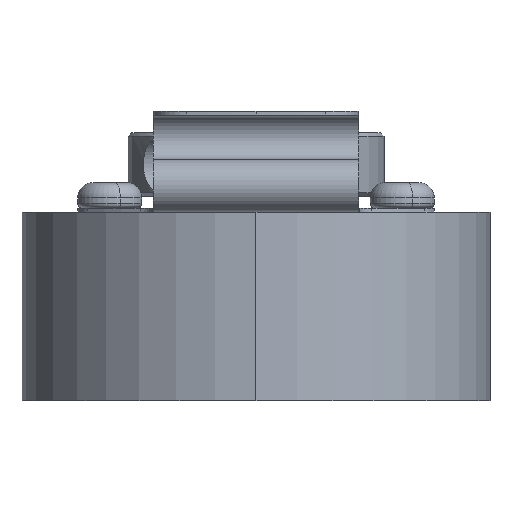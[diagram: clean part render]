
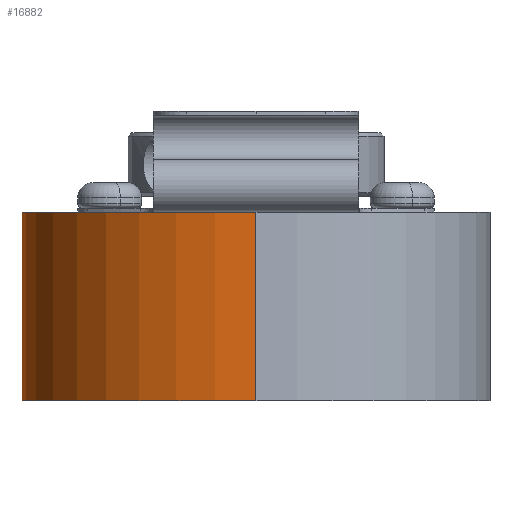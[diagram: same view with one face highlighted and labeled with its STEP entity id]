
A CAD part, left-side view. The second image highlights one B-rep face of the part: STEP entity #16882.
In plain terms, the highlighted cylindrical face has radius 18.25 mm (diameter 36.5 mm), a partial arc.
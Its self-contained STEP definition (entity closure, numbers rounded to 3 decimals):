
#865 = CARTESIAN_POINT ( 'NONE',  ( 0., 0., 0. ) ) ;
#1331 = ORIENTED_EDGE ( 'NONE', *, *, #21271, .T. ) ;
#1924 = VERTEX_POINT ( 'NONE', #30184 ) ;
#2551 = CARTESIAN_POINT ( 'NONE',  ( 18.25, 0., 984. ) ) ;
#3089 = DIRECTION ( 'NONE',  ( 1., 0., 0. ) ) ;
#3342 = EDGE_CURVE ( 'NONE', #1924, #25131, #28485, .T. ) ;
#3688 = CARTESIAN_POINT ( 'NONE',  ( 0., 0., -14.7 ) ) ;
#3714 = VECTOR ( 'NONE', #27923, 1000. ) ;
#4960 = CYLINDRICAL_SURFACE ( 'NONE', #30054, 18.25 ) ;
#8217 = CIRCLE ( 'NONE', #25611, 18.25 ) ;
#8704 = ORIENTED_EDGE ( 'NONE', *, *, #21694, .T. ) ;
#9229 = CIRCLE ( 'NONE', #30104, 18.25 ) ;
#10313 = LINE ( 'NONE', #2551, #13904 ) ;
#11622 = CARTESIAN_POINT ( 'NONE',  ( -18.25, 0., 0. ) ) ;
#13527 = CARTESIAN_POINT ( 'NONE',  ( -18.25, 0., 984. ) ) ;
#13904 = VECTOR ( 'NONE', #23224, 1000. ) ;
#14461 = VERTEX_POINT ( 'NONE', #16846 ) ;
#15208 = EDGE_CURVE ( 'NONE', #23662, #14461, #10313, .T. ) ;
#15460 = DIRECTION ( 'NONE',  ( 0., 0., 1. ) ) ;
#15715 = DIRECTION ( 'NONE',  ( -1., 0., 0. ) ) ;
#16846 = CARTESIAN_POINT ( 'NONE',  ( 18.25, 0., 0. ) ) ;
#16882 = ADVANCED_FACE ( 'NONE', ( #18060 ), #4960, .T. ) ;
#17142 = DIRECTION ( 'NONE',  ( 0., 0., -1. ) ) ;
#18060 = FACE_OUTER_BOUND ( 'NONE', #23761, .T. ) ;
#18074 = ORIENTED_EDGE ( 'NONE', *, *, #15208, .F. ) ;
#21271 = EDGE_CURVE ( 'NONE', #25131, #14461, #8217, .T. ) ;
#21400 = DIRECTION ( 'NONE',  ( 0., 0., 1. ) ) ;
#21694 = EDGE_CURVE ( 'NONE', #23662, #1924, #9229, .T. ) ;
#22801 = ORIENTED_EDGE ( 'NONE', *, *, #3342, .T. ) ;
#23224 = DIRECTION ( 'NONE',  ( 0., 0., 1. ) ) ;
#23485 = CARTESIAN_POINT ( 'NONE',  ( 18.25, 0., -14.7 ) ) ;
#23662 = VERTEX_POINT ( 'NONE', #23485 ) ;
#23761 = EDGE_LOOP ( 'NONE', ( #8704, #22801, #1331, #18074 ) ) ;
#23865 = CARTESIAN_POINT ( 'NONE',  ( 0., 0., 984. ) ) ;
#25131 = VERTEX_POINT ( 'NONE', #11622 ) ;
#25611 = AXIS2_PLACEMENT_3D ( 'NONE', #865, #17142, #15715 ) ;
#27127 = DIRECTION ( 'NONE',  ( 1., 0., 0. ) ) ;
#27923 = DIRECTION ( 'NONE',  ( 0., 0., 1. ) ) ;
#28485 = LINE ( 'NONE', #13527, #3714 ) ;
#30054 = AXIS2_PLACEMENT_3D ( 'NONE', #23865, #21400, #3089 ) ;
#30104 = AXIS2_PLACEMENT_3D ( 'NONE', #3688, #15460, #27127 ) ;
#30184 = CARTESIAN_POINT ( 'NONE',  ( -18.25, 0., -14.7 ) ) ;
